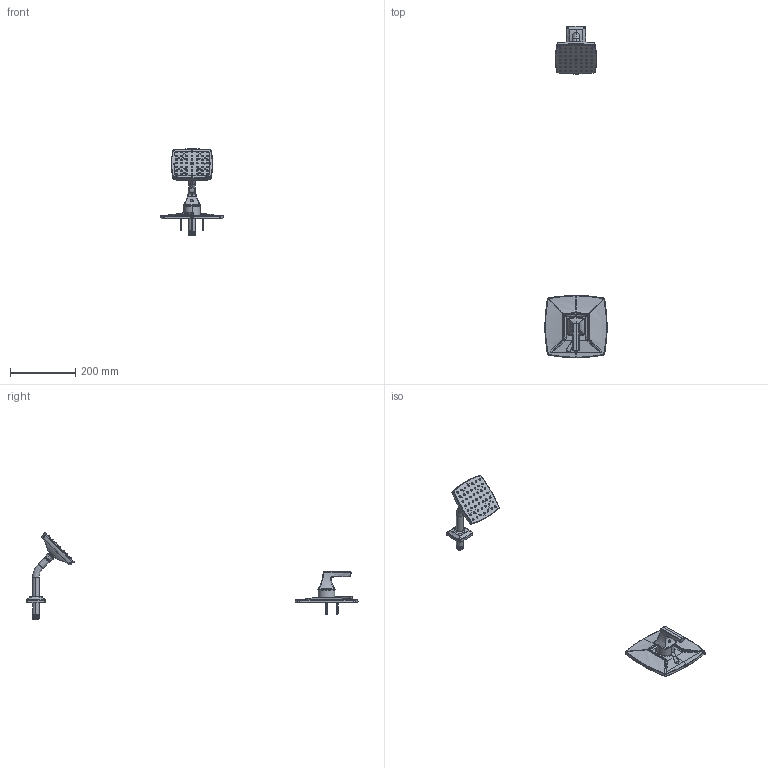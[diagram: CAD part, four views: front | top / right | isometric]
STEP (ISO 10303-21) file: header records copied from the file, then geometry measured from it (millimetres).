
FILE_DESCRIPTION (( 'STEP AP214' ), '1' );
FILE_NAME ('S5691TRM.STEP', '2025-01-02T06:28:02', ( '' ), ( '' ), 'SwSTEP 2.0', 'SolidWorks 2023', '' );
FILE_SCHEMA (( 'AUTOMOTIVE_DESIGN' ));
Products named in the file (1): S5691TRM
Bounding box: 190.24 x 1015.49 x 264.18 mm (x, y, z)
Surface area: 227201.4 mm2 (no closed solid volume)
Topology: 0 solids, 182 shells, 1097 faces, 4080 edges, 3119 vertices
Faces by surface type: bspline 393, plane 287, cylinder 246, cone 129, torus 23, sphere 19
Entity records: 157564 total; most frequent: CARTESIAN_POINT 128363, ORIENTED_EDGE 5925, DIRECTION 4506, EDGE_CURVE 4072, VERTEX_POINT 3119, B_SPLINE_CURVE_WITH_KNOTS 1894, AXIS2_PLACEMENT_3D 1709, EDGE_LOOP 1330
